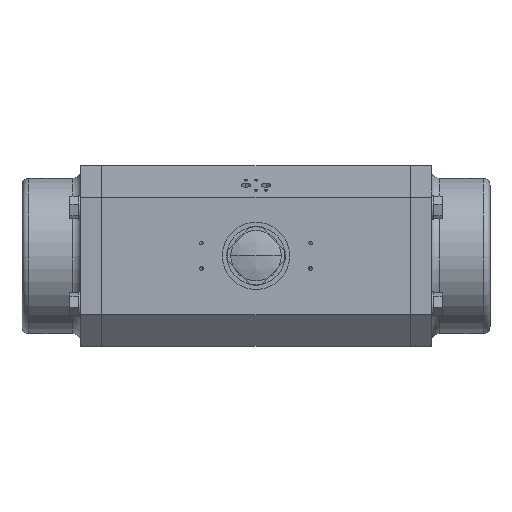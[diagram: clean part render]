
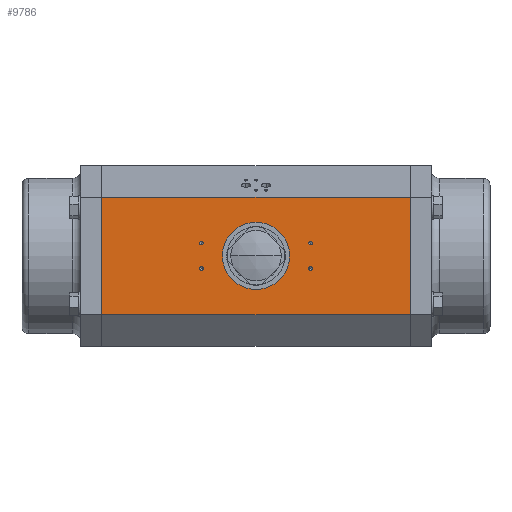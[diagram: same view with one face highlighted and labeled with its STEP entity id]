
A CAD part, top view. The second image highlights one B-rep face of the part: STEP entity #9786.
In plain terms, the highlighted planar face has unit normal (0, 0, 1) as drawn and (0, 1, 0) by its records, which use the part's own axes.
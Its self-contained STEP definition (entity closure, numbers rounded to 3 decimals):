
#561 = CARTESIAN_POINT ( 'NONE',  ( 15., 125., -65. ) ) ;
#1185 = AXIS2_PLACEMENT_3D ( 'NONE', #49136, #23675, #53402 ) ;
#1327 = CIRCLE ( 'NONE', #17533, 2.1 ) ;
#2209 = CIRCLE ( 'NONE', #40522, 40. ) ;
#2523 = DIRECTION ( 'NONE',  ( 0., 0., 1. ) ) ;
#2604 = DIRECTION ( 'NONE',  ( 0., 0., 1. ) ) ;
#3304 = CIRCLE ( 'NONE', #8607, 2.1 ) ;
#3449 = VERTEX_POINT ( 'NONE', #41446 ) ;
#3912 = DIRECTION ( 'NONE',  ( 0., 0., -1. ) ) ;
#4066 = CIRCLE ( 'NONE', #11278, 2.1 ) ;
#4334 = ORIENTED_EDGE ( 'NONE', *, *, #15242, .F. ) ;
#4662 = CARTESIAN_POINT ( 'NONE',  ( -15., 125., 65. ) ) ;
#4824 = DIRECTION ( 'NONE',  ( 0., 0., 1. ) ) ;
#4865 = CARTESIAN_POINT ( 'NONE',  ( -15., 125., 65. ) ) ;
#5661 = FACE_BOUND ( 'NONE', #18912, .T. ) ;
#6240 = LINE ( 'NONE', #43322, #37389 ) ;
#6249 = EDGE_CURVE ( 'NONE', #34371, #42551, #17602, .T. ) ;
#7708 = EDGE_CURVE ( 'NONE', #37334, #34327, #6240, .T. ) ;
#7758 = ORIENTED_EDGE ( 'NONE', *, *, #37139, .F. ) ;
#7864 = CARTESIAN_POINT ( 'NONE',  ( -15., 125., -65. ) ) ;
#8607 = AXIS2_PLACEMENT_3D ( 'NONE', #37794, #12388, #42053 ) ;
#8731 = CARTESIAN_POINT ( 'NONE',  ( 15., 125., -65. ) ) ;
#8878 = CARTESIAN_POINT ( 'NONE',  ( 0., 125., 0. ) ) ;
#8925 = DIRECTION ( 'NONE',  ( 0., 0., -1. ) ) ;
#9108 = DIRECTION ( 'NONE',  ( 0., 0., -1. ) ) ;
#9488 = ORIENTED_EDGE ( 'NONE', *, *, #50846, .T. ) ;
#9786 = ADVANCED_FACE ( 'NONE', ( #53421, #49434, #38152, #5661, #33472, #26845 ), #37449, .F. ) ;
#10138 = VERTEX_POINT ( 'NONE', #27557 ) ;
#10789 = CARTESIAN_POINT ( 'NONE',  ( 70., 125., -183.5 ) ) ;
#11278 = AXIS2_PLACEMENT_3D ( 'NONE', #53320, #27867, #2523 ) ;
#12128 = DIRECTION ( 'NONE',  ( 0., 0., 1. ) ) ;
#12241 = EDGE_CURVE ( 'NONE', #10138, #54590, #4066, .T. ) ;
#12388 = DIRECTION ( 'NONE',  ( 0., 1., 0. ) ) ;
#12997 = DIRECTION ( 'NONE',  ( 0., 0., 1. ) ) ;
#13123 = DIRECTION ( 'NONE',  ( 0., 0., -1. ) ) ;
#14378 = DIRECTION ( 'NONE',  ( 0., 0., 1. ) ) ;
#14511 = EDGE_LOOP ( 'NONE', ( #35276, #9488 ) ) ;
#14824 = VERTEX_POINT ( 'NONE', #47303 ) ;
#14929 = CARTESIAN_POINT ( 'NONE',  ( 15., 125., -62.9 ) ) ;
#15030 = DIRECTION ( 'NONE',  ( 1., 0., 0. ) ) ;
#15119 = ORIENTED_EDGE ( 'NONE', *, *, #26071, .T. ) ;
#15184 = CARTESIAN_POINT ( 'NONE',  ( 70., 125., -183.5 ) ) ;
#15242 = EDGE_CURVE ( 'NONE', #33868, #43863, #2209, .T. ) ;
#15896 = EDGE_LOOP ( 'NONE', ( #22460, #15119, #16068, #16242 ) ) ;
#16068 = ORIENTED_EDGE ( 'NONE', *, *, #32839, .F. ) ;
#16168 = ORIENTED_EDGE ( 'NONE', *, *, #43760, .F. ) ;
#16242 = ORIENTED_EDGE ( 'NONE', *, *, #7708, .F. ) ;
#17370 = VERTEX_POINT ( 'NONE', #32093 ) ;
#17533 = AXIS2_PLACEMENT_3D ( 'NONE', #8731, #38391, #12997 ) ;
#17602 = CIRCLE ( 'NONE', #21471, 2.1 ) ;
#17848 = CARTESIAN_POINT ( 'NONE',  ( 15., 125., 65. ) ) ;
#18289 = CARTESIAN_POINT ( 'NONE',  ( -70., 125., -183.5 ) ) ;
#18912 = EDGE_LOOP ( 'NONE', ( #25103, #36911 ) ) ;
#19958 = ORIENTED_EDGE ( 'NONE', *, *, #45374, .F. ) ;
#21471 = AXIS2_PLACEMENT_3D ( 'NONE', #17848, #47554, #22087 ) ;
#22087 = DIRECTION ( 'NONE',  ( 0., 0., -1. ) ) ;
#22460 = ORIENTED_EDGE ( 'NONE', *, *, #24143, .T. ) ;
#22495 = CIRCLE ( 'NONE', #1185, 40. ) ;
#22537 = VERTEX_POINT ( 'NONE', #28561 ) ;
#23016 = EDGE_CURVE ( 'NONE', #54590, #10138, #54589, .T. ) ;
#23675 = DIRECTION ( 'NONE',  ( 0., 1., 0. ) ) ;
#24048 = CARTESIAN_POINT ( 'NONE',  ( -15., 125., 67.1 ) ) ;
#24143 = EDGE_CURVE ( 'NONE', #37334, #3449, #46489, .T. ) ;
#24774 = CIRCLE ( 'NONE', #33994, 2.1 ) ;
#24846 = VERTEX_POINT ( 'NONE', #24048 ) ;
#25103 = ORIENTED_EDGE ( 'NONE', *, *, #23016, .F. ) ;
#26071 = EDGE_CURVE ( 'NONE', #3449, #17370, #42289, .T. ) ;
#26714 = CIRCLE ( 'NONE', #30808, 2.1 ) ;
#26845 = FACE_BOUND ( 'NONE', #41669, .T. ) ;
#27557 = CARTESIAN_POINT ( 'NONE',  ( -15., 125., -67.1 ) ) ;
#27867 = DIRECTION ( 'NONE',  ( 0., 1., 0. ) ) ;
#28561 = CARTESIAN_POINT ( 'NONE',  ( -15., 125., 62.9 ) ) ;
#29258 = DIRECTION ( 'NONE',  ( 0., -1., 0. ) ) ;
#30167 = DIRECTION ( 'NONE',  ( 0., 1., 0. ) ) ;
#30808 = AXIS2_PLACEMENT_3D ( 'NONE', #4865, #34471, #9108 ) ;
#32093 = CARTESIAN_POINT ( 'NONE',  ( 70., 125., 183.5 ) ) ;
#32247 = EDGE_LOOP ( 'NONE', ( #7758, #19958 ) ) ;
#32839 = EDGE_CURVE ( 'NONE', #34327, #17370, #49115, .T. ) ;
#33472 = FACE_OUTER_BOUND ( 'NONE', #15896, .T. ) ;
#33622 = VECTOR ( 'NONE', #15030, 1000. ) ;
#33726 = VERTEX_POINT ( 'NONE', #14929 ) ;
#33840 = VECTOR ( 'NONE', #14378, 1000. ) ;
#33868 = VERTEX_POINT ( 'NONE', #45872 ) ;
#33994 = AXIS2_PLACEMENT_3D ( 'NONE', #4662, #34283, #8925 ) ;
#34283 = DIRECTION ( 'NONE',  ( 0., -1., 0. ) ) ;
#34327 = VERTEX_POINT ( 'NONE', #10789 ) ;
#34371 = VERTEX_POINT ( 'NONE', #36182 ) ;
#34471 = DIRECTION ( 'NONE',  ( 0., -1., 0. ) ) ;
#35276 = ORIENTED_EDGE ( 'NONE', *, *, #49760, .T. ) ;
#35840 = AXIS2_PLACEMENT_3D ( 'NONE', #561, #30167, #4824 ) ;
#36182 = CARTESIAN_POINT ( 'NONE',  ( 15., 125., 67.1 ) ) ;
#36911 = ORIENTED_EDGE ( 'NONE', *, *, #12241, .F. ) ;
#37139 = EDGE_CURVE ( 'NONE', #33726, #14824, #44711, .T. ) ;
#37334 = VERTEX_POINT ( 'NONE', #18289 ) ;
#37389 = VECTOR ( 'NONE', #47579, 1000. ) ;
#37449 = PLANE ( 'NONE',  #42990 ) ;
#37518 = DIRECTION ( 'NONE',  ( 0., 1., 0. ) ) ;
#37794 = CARTESIAN_POINT ( 'NONE',  ( 15., 125., 65. ) ) ;
#37821 = VECTOR ( 'NONE', #2604, 1000. ) ;
#38152 = FACE_BOUND ( 'NONE', #14511, .T. ) ;
#38391 = DIRECTION ( 'NONE',  ( 0., 1., 0. ) ) ;
#38533 = DIRECTION ( 'NONE',  ( 0., 1., 0. ) ) ;
#40522 = AXIS2_PLACEMENT_3D ( 'NONE', #8878, #38533, #13123 ) ;
#41314 = CARTESIAN_POINT ( 'NONE',  ( 0., 125., 40. ) ) ;
#41446 = CARTESIAN_POINT ( 'NONE',  ( -70., 125., 183.5 ) ) ;
#41669 = EDGE_LOOP ( 'NONE', ( #4334, #16168 ) ) ;
#42053 = DIRECTION ( 'NONE',  ( 0., 0., -1. ) ) ;
#42289 = LINE ( 'NONE', #44713, #33622 ) ;
#42551 = VERTEX_POINT ( 'NONE', #46042 ) ;
#42990 = AXIS2_PLACEMENT_3D ( 'NONE', #54721, #29258, #3912 ) ;
#43033 = AXIS2_PLACEMENT_3D ( 'NONE', #7864, #37518, #12128 ) ;
#43322 = CARTESIAN_POINT ( 'NONE',  ( -70., 125., -183.5 ) ) ;
#43760 = EDGE_CURVE ( 'NONE', #43863, #33868, #22495, .T. ) ;
#43863 = VERTEX_POINT ( 'NONE', #41314 ) ;
#44011 = EDGE_CURVE ( 'NONE', #42551, #34371, #3304, .T. ) ;
#44711 = CIRCLE ( 'NONE', #35840, 2.1 ) ;
#44713 = CARTESIAN_POINT ( 'NONE',  ( -70., 125., 183.5 ) ) ;
#45374 = EDGE_CURVE ( 'NONE', #14824, #33726, #1327, .T. ) ;
#45872 = CARTESIAN_POINT ( 'NONE',  ( 0., 125., -40. ) ) ;
#46042 = CARTESIAN_POINT ( 'NONE',  ( 15., 125., 62.9 ) ) ;
#46489 = LINE ( 'NONE', #52413, #33840 ) ;
#47303 = CARTESIAN_POINT ( 'NONE',  ( 15., 125., -67.1 ) ) ;
#47341 = EDGE_LOOP ( 'NONE', ( #51510, #51965 ) ) ;
#47554 = DIRECTION ( 'NONE',  ( 0., 1., 0. ) ) ;
#47579 = DIRECTION ( 'NONE',  ( 1., 0., 0. ) ) ;
#49115 = LINE ( 'NONE', #15184, #37821 ) ;
#49134 = CARTESIAN_POINT ( 'NONE',  ( -15., 125., -62.9 ) ) ;
#49136 = CARTESIAN_POINT ( 'NONE',  ( 0., 125., 0. ) ) ;
#49434 = FACE_BOUND ( 'NONE', #47341, .T. ) ;
#49760 = EDGE_CURVE ( 'NONE', #22537, #24846, #24774, .T. ) ;
#50846 = EDGE_CURVE ( 'NONE', #24846, #22537, #26714, .T. ) ;
#51510 = ORIENTED_EDGE ( 'NONE', *, *, #44011, .F. ) ;
#51965 = ORIENTED_EDGE ( 'NONE', *, *, #6249, .F. ) ;
#52413 = CARTESIAN_POINT ( 'NONE',  ( -70., 125., -183.5 ) ) ;
#53320 = CARTESIAN_POINT ( 'NONE',  ( -15., 125., -65. ) ) ;
#53402 = DIRECTION ( 'NONE',  ( 0., 0., -1. ) ) ;
#53421 = FACE_BOUND ( 'NONE', #32247, .T. ) ;
#54589 = CIRCLE ( 'NONE', #43033, 2.1 ) ;
#54590 = VERTEX_POINT ( 'NONE', #49134 ) ;
#54721 = CARTESIAN_POINT ( 'NONE',  ( -70., 125., -183.5 ) ) ;
